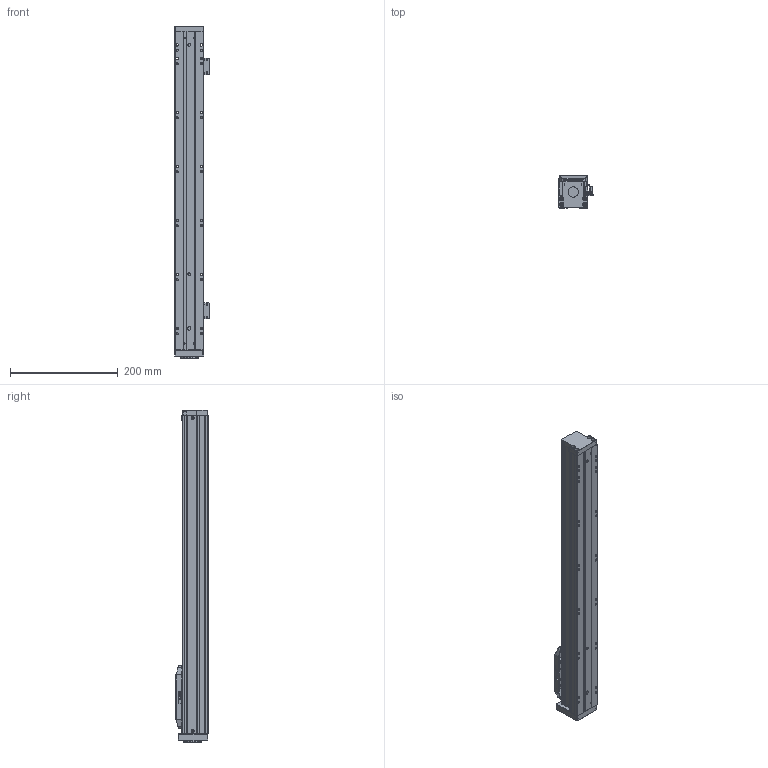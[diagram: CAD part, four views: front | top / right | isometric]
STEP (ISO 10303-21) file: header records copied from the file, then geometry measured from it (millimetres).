
FILE_DESCRIPTION (( 'STEP AP203' ), '1' );
FILE_NAME ('KTH5-L10-S450.STEP', '2019-12-19T08:23:37', ( '微软用户' ), ( '微软中国' ), 'SwSTEP 2.0', 'SolidWorks 2017', '' );
FILE_SCHEMA (( 'CONFIG_CONTROL_DESIGN' ));
Length unit declared in the file: millimetre
Products named in the file (16): EE-SX674; LES50-013癹弇菜; EE-SX674WR嫖萇羲壽假蚾啣; 詩湍; KTH5-L10-S450; 詩湍揤啣; GB╱T 70.1-2008[内六角圆柱头螺钉M4×16]_M4×16; LES50-001菁釱; GB╱T 70.2-2008[内六角平圆头螺钉M3×10]_M3×10; LES50-004賑釱; ヶ裔-党蜊唳; 耜啣; 粣創釱-郔笝唳20190813; 階裔; 嫖萇羲壽諉揖え; 棠沭
Assembly tree (31 placements, depth 2):
  KTH5-L10-S450
    LES50-001菁釱
    LES50-004賑釱
    耜啣  x2
    階裔
    棠沭  x2
    LES50-013癹弇菜  x2
    詩湍
    詩湍揤啣  x2
    GB╱T 70.1-2008[内六角圆柱头螺钉M4×16]_M4×16  x4
    GB╱T 70.2-2008[内六角平圆头螺钉M3×10]_M3×10  x8
    ヶ裔-党蜊唳
    粣創釱-郔笝唳20190813
    嫖萇羲壽諉揖え
    EE-SX674  x2
    EE-SX674WR嫖萇羲壽假蚾啣  x2
Bounding box: 64.25 x 60 x 615 mm (x, y, z)
Volume: 602653.5 mm3; surface area: 328684.6 mm2
Topology: 31 solids, 31 shells, 1405 faces, 3404 edges, 2084 vertices
Faces by surface type: plane 654, cylinder 455, cone 232, torus 36, sphere 16, bspline 12
Entity records: 32366 total; most frequent: CARTESIAN_POINT 5751, DIRECTION 5272, ORIENTED_EDGE 4876, EDGE_CURVE 2438, AXIS2_PLACEMENT_3D 1860, LINE 1552, VECTOR 1552, VERTEX_POINT 1549
